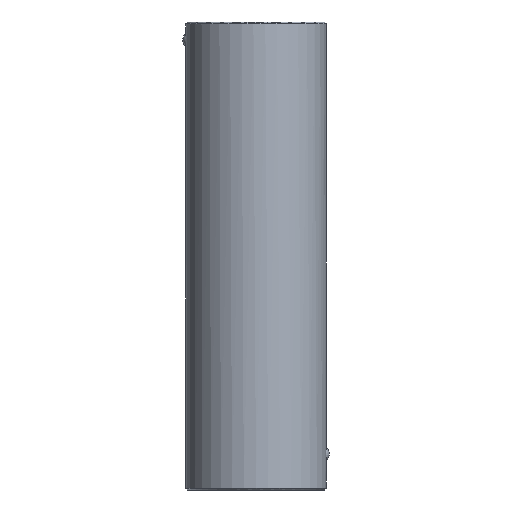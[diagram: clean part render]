
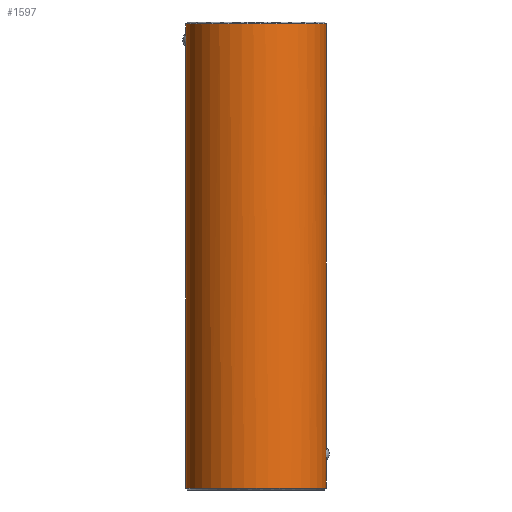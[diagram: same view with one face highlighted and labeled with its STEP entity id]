
A CAD part, front view. The second image highlights one B-rep face of the part: STEP entity #1597.
In plain terms, the highlighted cylindrical face has radius 12 mm (diameter 24 mm), a partial arc.
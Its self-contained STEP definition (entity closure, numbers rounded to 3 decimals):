
#1369=CARTESIAN_POINT('Vertex',(-12.,0.,0.3)) ;
#1376=CARTESIAN_POINT('Vertex',(12.,0.,0.3)) ;
#1379=CARTESIAN_POINT('Axis2P3D Location',(0.,0.,0.3)) ;
#1497=CARTESIAN_POINT('Axis2P3D Location',(0.,0.,80.)) ;
#1502=CARTESIAN_POINT('Line Origine',(12.,0.,80.)) ;
#1506=CARTESIAN_POINT('Vertex',(12.,0.,5.082)) ;
#1510=CARTESIAN_POINT('Control Point',(11.945,-1.143,6.424)) ;
#1511=CARTESIAN_POINT('Control Point',(11.937,-1.227,6.029)) ;
#1512=CARTESIAN_POINT('Control Point',(11.946,-1.127,5.596)) ;
#1513=CARTESIAN_POINT('Control Point',(11.983,-0.81,5.247)) ;
#1514=CARTESIAN_POINT('Control Point',(12.,-0.404,5.082)) ;
#1515=CARTESIAN_POINT('Control Point',(12.,0.,5.082)) ;
#1516=CARTESIAN_POINT('Vertex',(11.945,-1.143,6.424)) ;
#1520=CARTESIAN_POINT('Control Point',(12.,0.,7.318)) ;
#1521=CARTESIAN_POINT('Control Point',(12.,-0.393,7.318)) ;
#1522=CARTESIAN_POINT('Control Point',(11.981,-0.79,7.149)) ;
#1523=CARTESIAN_POINT('Control Point',(11.953,-1.061,6.808)) ;
#1524=CARTESIAN_POINT('Control Point',(11.945,-1.143,6.424)) ;
#1525=CARTESIAN_POINT('Vertex',(12.,0.,7.318)) ;
#1528=CARTESIAN_POINT('Line Origine',(12.,0.,80.)) ;
#1532=CARTESIAN_POINT('Vertex',(12.,0.,79.7)) ;
#1536=CARTESIAN_POINT('Control Point',(-12.,0.,79.7)) ;
#1537=CARTESIAN_POINT('Control Point',(-12.,-1.885,79.7)) ;
#1538=CARTESIAN_POINT('Control Point',(-11.63,-3.77,79.7)) ;
#1539=CARTESIAN_POINT('Control Point',(-10.889,-5.558,79.7)) ;
#1540=CARTESIAN_POINT('Control Point',(-8.747,-8.747,79.7)) ;
#1541=CARTESIAN_POINT('Control Point',(-5.558,-10.889,79.7)) ;
#1542=CARTESIAN_POINT('Control Point',(-3.77,-11.63,79.7)) ;
#1543=CARTESIAN_POINT('Control Point',(0.,-12.37,79.7)) ;
#1544=CARTESIAN_POINT('Control Point',(3.77,-11.63,79.7)) ;
#1545=CARTESIAN_POINT('Control Point',(5.558,-10.889,79.7)) ;
#1546=CARTESIAN_POINT('Control Point',(8.747,-8.747,79.7)) ;
#1547=CARTESIAN_POINT('Control Point',(10.889,-5.558,79.7)) ;
#1548=CARTESIAN_POINT('Control Point',(11.63,-3.77,79.7)) ;
#1549=CARTESIAN_POINT('Control Point',(12.,-1.885,79.7)) ;
#1550=CARTESIAN_POINT('Control Point',(12.,0.,79.7)) ;
#1551=CARTESIAN_POINT('Vertex',(-12.,0.,79.7)) ;
#1554=CARTESIAN_POINT('Line Origine',(-12.,0.,80.)) ;
#1558=CARTESIAN_POINT('Vertex',(-12.,0.,78.018)) ;
#1562=CARTESIAN_POINT('Control Point',(-11.945,-1.143,76.676)) ;
#1563=CARTESIAN_POINT('Control Point',(-11.937,-1.227,77.071)) ;
#1564=CARTESIAN_POINT('Control Point',(-11.946,-1.127,77.504)) ;
#1565=CARTESIAN_POINT('Control Point',(-11.983,-0.81,77.853)) ;
#1566=CARTESIAN_POINT('Control Point',(-12.,-0.404,78.018)) ;
#1567=CARTESIAN_POINT('Control Point',(-12.,0.,78.018)) ;
#1568=CARTESIAN_POINT('Vertex',(-11.945,-1.143,76.676)) ;
#1572=CARTESIAN_POINT('Control Point',(-12.,0.,75.782)) ;
#1573=CARTESIAN_POINT('Control Point',(-12.,-0.393,75.782)) ;
#1574=CARTESIAN_POINT('Control Point',(-11.981,-0.79,75.951)) ;
#1575=CARTESIAN_POINT('Control Point',(-11.953,-1.061,76.292)) ;
#1576=CARTESIAN_POINT('Control Point',(-11.945,-1.143,76.676)) ;
#1577=CARTESIAN_POINT('Vertex',(-12.,0.,75.782)) ;
#1580=CARTESIAN_POINT('Line Origine',(-12.,0.,80.)) ;
#1380=DIRECTION('Axis2P3D Direction',(0.,-0.,1.)) ;
#1498=DIRECTION('Axis2P3D Direction',(0.,0.,-1.)) ;
#1499=DIRECTION('Axis2P3D XDirection',(1.,0.,0.)) ;
#1503=DIRECTION('Vector Direction',(0.,0.,-1.)) ;
#1529=DIRECTION('Vector Direction',(0.,0.,-1.)) ;
#1555=DIRECTION('Vector Direction',(0.,0.,-1.)) ;
#1581=DIRECTION('Vector Direction',(0.,0.,-1.)) ;
#1381=AXIS2_PLACEMENT_3D('Circle Axis2P3D',#1379,#1380,$) ;
#1500=AXIS2_PLACEMENT_3D('Cylinder Axis2P3D',#1497,#1498,#1499) ;
#1586=ORIENTED_EDGE('',*,*,#1508,.T.) ;
#1587=ORIENTED_EDGE('',*,*,#1518,.F.) ;
#1588=ORIENTED_EDGE('',*,*,#1527,.F.) ;
#1589=ORIENTED_EDGE('',*,*,#1534,.T.) ;
#1590=ORIENTED_EDGE('',*,*,#1553,.F.) ;
#1591=ORIENTED_EDGE('',*,*,#1560,.T.) ;
#1592=ORIENTED_EDGE('',*,*,#1570,.F.) ;
#1593=ORIENTED_EDGE('',*,*,#1579,.F.) ;
#1594=ORIENTED_EDGE('',*,*,#1584,.T.) ;
#1595=ORIENTED_EDGE('',*,*,#1383,.T.) ;
#1504=VECTOR('Line Direction',#1503,1.) ;
#1530=VECTOR('Line Direction',#1529,1.) ;
#1556=VECTOR('Line Direction',#1555,1.) ;
#1582=VECTOR('Line Direction',#1581,1.) ;
#1597=ADVANCED_FACE('730-19x80',(#1596),#1501,.T.) ;
#1509=B_SPLINE_CURVE_WITH_KNOTS('',5,(#1510,#1511,#1512,#1513,#1514,#1515),.UNSPECIFIED.,.F.,.U.,(6,6),(0.,2.867),.UNSPECIFIED.) ;
#1519=B_SPLINE_CURVE_WITH_KNOTS('',4,(#1520,#1521,#1522,#1523,#1524),.UNSPECIFIED.,.F.,.U.,(5,5),(0.,2.23),.UNSPECIFIED.) ;
#1535=B_SPLINE_CURVE_WITH_KNOTS('',5,(#1536,#1537,#1538,#1539,#1540,#1541,#1542,#1543,#1544,#1545,#1546,#1547,#1548,#1549,#1550),.UNSPECIFIED.,.F.,.U.,(6,3,3,3,6),(-18.85,-9.425,0.,9.425,18.85),.UNSPECIFIED.) ;
#1561=B_SPLINE_CURVE_WITH_KNOTS('',5,(#1562,#1563,#1564,#1565,#1566,#1567),.UNSPECIFIED.,.F.,.U.,(6,6),(0.,2.867),.UNSPECIFIED.) ;
#1571=B_SPLINE_CURVE_WITH_KNOTS('',4,(#1572,#1573,#1574,#1575,#1576),.UNSPECIFIED.,.F.,.U.,(5,5),(0.,2.23),.UNSPECIFIED.) ;
#1382=CIRCLE('generated circle',#1381,12.) ;
#1501=CYLINDRICAL_SURFACE('generated cylinder',#1500,12.) ;
#1383=EDGE_CURVE('',#1370,#1377,#1382,.T.) ;
#1508=EDGE_CURVE('',#1377,#1507,#1505,.F.) ;
#1518=EDGE_CURVE('',#1517,#1507,#1509,.T.) ;
#1527=EDGE_CURVE('',#1526,#1517,#1519,.T.) ;
#1534=EDGE_CURVE('',#1526,#1533,#1531,.F.) ;
#1553=EDGE_CURVE('',#1552,#1533,#1535,.T.) ;
#1560=EDGE_CURVE('',#1552,#1559,#1557,.T.) ;
#1570=EDGE_CURVE('',#1569,#1559,#1561,.T.) ;
#1579=EDGE_CURVE('',#1578,#1569,#1571,.T.) ;
#1584=EDGE_CURVE('',#1578,#1370,#1583,.T.) ;
#1585=EDGE_LOOP('',(#1586,#1587,#1588,#1589,#1590,#1591,#1592,#1593,#1594,#1595)) ;
#1596=FACE_OUTER_BOUND('',#1585,.T.) ;
#1505=LINE('Line',#1502,#1504) ;
#1531=LINE('Line',#1528,#1530) ;
#1557=LINE('Line',#1554,#1556) ;
#1583=LINE('Line',#1580,#1582) ;
#1370=VERTEX_POINT('',#1369) ;
#1377=VERTEX_POINT('',#1376) ;
#1507=VERTEX_POINT('',#1506) ;
#1517=VERTEX_POINT('',#1516) ;
#1526=VERTEX_POINT('',#1525) ;
#1533=VERTEX_POINT('',#1532) ;
#1552=VERTEX_POINT('',#1551) ;
#1559=VERTEX_POINT('',#1558) ;
#1569=VERTEX_POINT('',#1568) ;
#1578=VERTEX_POINT('',#1577) ;
